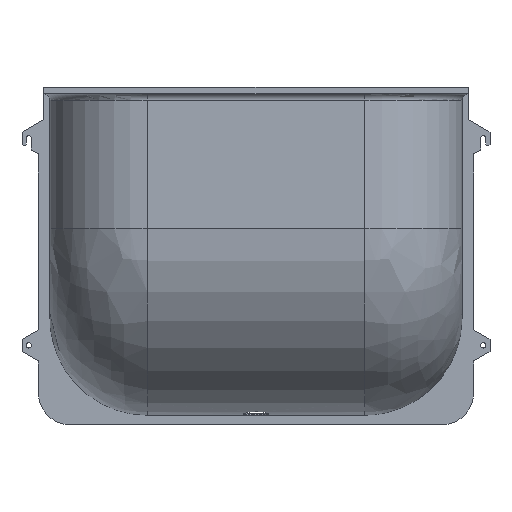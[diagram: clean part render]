
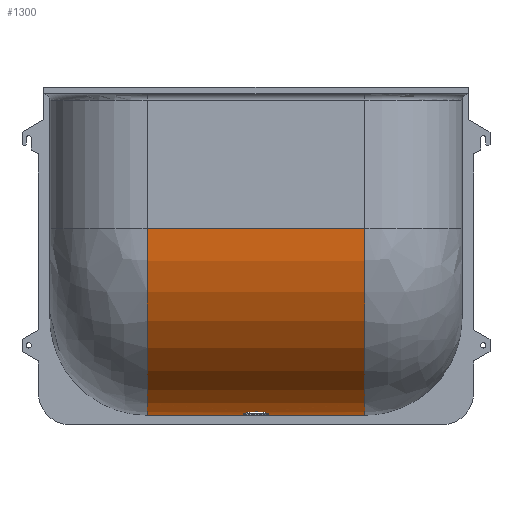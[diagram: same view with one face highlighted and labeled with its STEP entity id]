
A CAD part, top view. The second image highlights one B-rep face of the part: STEP entity #1300.
In plain terms, the highlighted cylindrical face has radius 575 mm (diameter 1150 mm), a partial arc.
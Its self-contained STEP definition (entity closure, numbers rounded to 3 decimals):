
#104=CIRCLE('',#1411,575.);
#106=CIRCLE('',#1414,575.);
#185=LINE('',#2291,#315);
#186=LINE('',#2293,#316);
#315=VECTOR('',#1676,670.);
#316=VECTOR('',#1679,670.);
#381=FACE_BOUND('',#492,.T.);
#416=FACE_OUTER_BOUND('',#491,.T.);
#491=EDGE_LOOP('',(#1036,#1037,#1038,#1039));
#492=EDGE_LOOP('',(#1040));
#538=B_SPLINE_CURVE_WITH_KNOTS('',3,(#1908,#1909,#1910,#1911,#1912,#1913,
#1914,#1915,#1916,#1917,#1918,#1919,#1920,#1921,#1922,#1923,#1924,#1925,
#1926,#1927,#1928,#1929,#1930,#1931,#1932,#1933,#1934,#1935,#1936,#1937,
#1938,#1939,#1940,#1941,#1942,#1943,#1944,#1945,#1946,#1947,#1948,#1949,
#1950,#1951,#1952,#1953,#1954,#1955,#1956,#1957,#1958,#1959,#1960,#1961,
#1962,#1963,#1964,#1965,#1966,#1967,#1968,#1969,#1970,#1971,#1972,#1973),
 .UNSPECIFIED.,.T.,.F.,(4,2,2,2,2,2,2,2,2,2,2,2,2,2,2,2,2,2,2,2,2,2,2,2,
2,2,2,2,2,2,2,2,4),(0.,0.753,1.506,2.259,
3.012,3.769,4.526,5.284,6.041,
6.803,7.565,8.327,9.089,9.843,
10.596,11.35,12.104,12.857,13.611,
14.365,15.118,15.88,16.642,17.405,
18.167,18.924,19.681,20.438,21.195,
21.948,22.701,23.454,24.207),
 .UNSPECIFIED.);
#546=VERTEX_POINT('',#1907);
#631=VERTEX_POINT('',#2233);
#634=VERTEX_POINT('',#2251);
#635=VERTEX_POINT('',#2286);
#636=VERTEX_POINT('',#2290);
#672=EDGE_CURVE('',#546,#546,#538,.T.);
#787=EDGE_CURVE('',#634,#635,#104,.T.);
#789=EDGE_CURVE('',#636,#634,#185,.T.);
#790=EDGE_CURVE('',#631,#636,#106,.T.);
#791=EDGE_CURVE('',#635,#631,#186,.T.);
#1036=ORIENTED_EDGE('',*,*,#789,.F.);
#1037=ORIENTED_EDGE('',*,*,#790,.F.);
#1038=ORIENTED_EDGE('',*,*,#791,.F.);
#1039=ORIENTED_EDGE('',*,*,#787,.F.);
#1040=ORIENTED_EDGE('',*,*,#672,.T.);
#1258=CYLINDRICAL_SURFACE('',#1413,575.);
#1300=ADVANCED_FACE('',(#416,#381),#1258,.T.);
#1411=AXIS2_PLACEMENT_3D('',#2287,#1670,#1671);
#1413=AXIS2_PLACEMENT_3D('',#2289,#1674,#1675);
#1414=AXIS2_PLACEMENT_3D('',#2292,#1677,#1678);
#1670=DIRECTION('center_axis',(-1.,0.,0.));
#1671=DIRECTION('ref_axis',(0.,-0.707,0.707));
#1674=DIRECTION('center_axis',(1.,0.,0.));
#1675=DIRECTION('ref_axis',(0.,0.,1.));
#1676=DIRECTION('',(-1.,0.,0.));
#1677=DIRECTION('center_axis',(1.,0.,0.));
#1678=DIRECTION('ref_axis',(0.,-0.707,0.707));
#1679=DIRECTION('',(1.,0.,0.));
#1907=CARTESIAN_POINT('',(0.,-1009.217,30.));
#1908=CARTESIAN_POINT('Ctrl Pts',(0.,-1009.217,
30.));
#1909=CARTESIAN_POINT('Ctrl Pts',(-2.51,-1009.217,30.));
#1910=CARTESIAN_POINT('Ctrl Pts',(-5.106,-1009.204,30.24));
#1911=CARTESIAN_POINT('Ctrl Pts',(-10.27,-1009.15,31.251));
#1912=CARTESIAN_POINT('Ctrl Pts',(-12.838,-1009.109,32.022));
#1913=CARTESIAN_POINT('Ctrl Pts',(-17.762,-1008.991,34.061));
#1914=CARTESIAN_POINT('Ctrl Pts',(-20.123,-1008.915,35.331));
#1915=CARTESIAN_POINT('Ctrl Pts',(-24.488,-1008.727,38.263));
#1916=CARTESIAN_POINT('Ctrl Pts',(-26.493,-1008.615,39.926));
#1917=CARTESIAN_POINT('Ctrl Pts',(-30.05,-1008.357,43.479));
#1918=CARTESIAN_POINT('Ctrl Pts',(-31.722,-1008.202,45.491));
#1919=CARTESIAN_POINT('Ctrl Pts',(-34.666,-1007.838,49.87));
#1920=CARTESIAN_POINT('Ctrl Pts',(-35.938,-1007.628,52.236));
#1921=CARTESIAN_POINT('Ctrl Pts',(-37.98,-1007.156,57.169));
#1922=CARTESIAN_POINT('Ctrl Pts',(-38.751,-1006.894,59.739));
#1923=CARTESIAN_POINT('Ctrl Pts',(-39.761,-1006.331,64.902));
#1924=CARTESIAN_POINT('Ctrl Pts',(-40.,-1006.03,67.495));
#1925=CARTESIAN_POINT('Ctrl Pts',(-40.,-1005.414,72.522));
#1926=CARTESIAN_POINT('Ctrl Pts',(-39.758,-1005.077,75.127));
#1927=CARTESIAN_POINT('Ctrl Pts',(-38.739,-1004.37,80.308));
#1928=CARTESIAN_POINT('Ctrl Pts',(-37.963,-1004.001,82.882));
#1929=CARTESIAN_POINT('Ctrl Pts',(-35.911,-1003.26,87.819));
#1930=CARTESIAN_POINT('Ctrl Pts',(-34.634,-1002.888,90.185));
#1931=CARTESIAN_POINT('Ctrl Pts',(-31.681,-1002.176,94.561));
#1932=CARTESIAN_POINT('Ctrl Pts',(-30.006,-1001.835,96.571));
#1933=CARTESIAN_POINT('Ctrl Pts',(-26.452,-1001.221,100.109));
#1934=CARTESIAN_POINT('Ctrl Pts',(-24.454,-1000.925,101.762));
#1935=CARTESIAN_POINT('Ctrl Pts',(-20.103,-1000.393,104.681));
#1936=CARTESIAN_POINT('Ctrl Pts',(-17.748,-1000.156,105.945));
#1937=CARTESIAN_POINT('Ctrl Pts',(-12.833,-999.771,107.979));
#1938=CARTESIAN_POINT('Ctrl Pts',(-10.269,-999.623,108.749));
#1939=CARTESIAN_POINT('Ctrl Pts',(-5.108,-999.427,109.76));
#1940=CARTESIAN_POINT('Ctrl Pts',(-2.512,-999.38,110.));
#1941=CARTESIAN_POINT('Ctrl Pts',(2.512,-999.38,110.));
#1942=CARTESIAN_POINT('Ctrl Pts',(5.108,-999.427,109.76));
#1943=CARTESIAN_POINT('Ctrl Pts',(10.269,-999.623,108.749));
#1944=CARTESIAN_POINT('Ctrl Pts',(12.833,-999.771,107.979));
#1945=CARTESIAN_POINT('Ctrl Pts',(17.748,-1000.156,105.945));
#1946=CARTESIAN_POINT('Ctrl Pts',(20.103,-1000.393,104.681));
#1947=CARTESIAN_POINT('Ctrl Pts',(24.454,-1000.925,101.762));
#1948=CARTESIAN_POINT('Ctrl Pts',(26.452,-1001.221,100.109));
#1949=CARTESIAN_POINT('Ctrl Pts',(30.006,-1001.835,96.571));
#1950=CARTESIAN_POINT('Ctrl Pts',(31.681,-1002.176,94.561));
#1951=CARTESIAN_POINT('Ctrl Pts',(34.634,-1002.888,90.185));
#1952=CARTESIAN_POINT('Ctrl Pts',(35.911,-1003.26,87.819));
#1953=CARTESIAN_POINT('Ctrl Pts',(37.963,-1004.001,82.882));
#1954=CARTESIAN_POINT('Ctrl Pts',(38.739,-1004.37,80.308));
#1955=CARTESIAN_POINT('Ctrl Pts',(39.758,-1005.077,75.127));
#1956=CARTESIAN_POINT('Ctrl Pts',(40.,-1005.414,72.522));
#1957=CARTESIAN_POINT('Ctrl Pts',(40.,-1006.03,67.495));
#1958=CARTESIAN_POINT('Ctrl Pts',(39.761,-1006.331,64.902));
#1959=CARTESIAN_POINT('Ctrl Pts',(38.751,-1006.894,59.739));
#1960=CARTESIAN_POINT('Ctrl Pts',(37.98,-1007.156,57.169));
#1961=CARTESIAN_POINT('Ctrl Pts',(35.938,-1007.628,52.236));
#1962=CARTESIAN_POINT('Ctrl Pts',(34.666,-1007.838,49.87));
#1963=CARTESIAN_POINT('Ctrl Pts',(31.722,-1008.202,45.491));
#1964=CARTESIAN_POINT('Ctrl Pts',(30.05,-1008.357,43.479));
#1965=CARTESIAN_POINT('Ctrl Pts',(26.493,-1008.615,39.926));
#1966=CARTESIAN_POINT('Ctrl Pts',(24.488,-1008.727,38.263));
#1967=CARTESIAN_POINT('Ctrl Pts',(20.123,-1008.915,35.331));
#1968=CARTESIAN_POINT('Ctrl Pts',(17.762,-1008.991,34.061));
#1969=CARTESIAN_POINT('Ctrl Pts',(12.838,-1009.109,32.022));
#1970=CARTESIAN_POINT('Ctrl Pts',(10.27,-1009.15,31.251));
#1971=CARTESIAN_POINT('Ctrl Pts',(5.106,-1009.204,30.24));
#1972=CARTESIAN_POINT('Ctrl Pts',(2.51,-1009.217,30.));
#1973=CARTESIAN_POINT('Ctrl Pts',(0.,-1009.217,
30.));
#2233=CARTESIAN_POINT('',(335.,-435.,575.));
#2251=CARTESIAN_POINT('',(-335.,-1009.986,4.));
#2286=CARTESIAN_POINT('',(-335.,-435.,575.));
#2287=CARTESIAN_POINT('Origin',(-335.,-435.,0.));
#2289=CARTESIAN_POINT('Origin',(0.,-435.,0.));
#2290=CARTESIAN_POINT('',(335.,-1009.986,4.));
#2291=CARTESIAN_POINT('',(0.,-1009.986,4.));
#2292=CARTESIAN_POINT('Origin',(335.,-435.,0.));
#2293=CARTESIAN_POINT('',(0.,-435.,575.));
